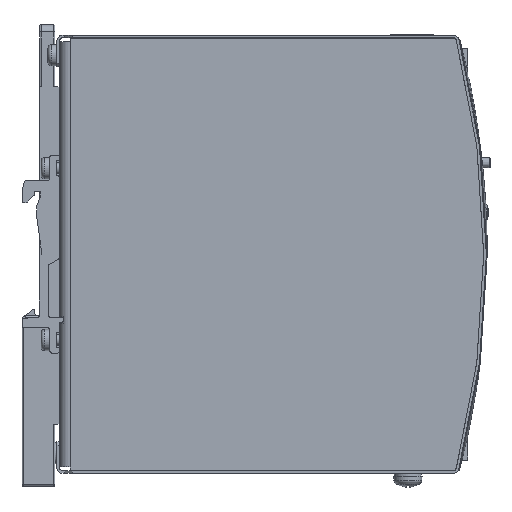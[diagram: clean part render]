
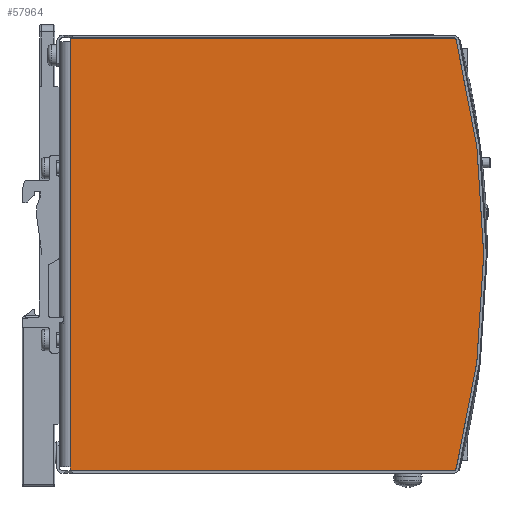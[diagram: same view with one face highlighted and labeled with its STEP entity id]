
A CAD part, front view. The second image highlights one B-rep face of the part: STEP entity #57964.
In plain terms, the highlighted planar face has unit normal (0, -1, 0).
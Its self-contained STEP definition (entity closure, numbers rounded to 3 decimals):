
#2927=PLANE('',#61374);
#5221=FACE_OUTER_BOUND('',#8307,.T.);
#8307=EDGE_LOOP('',(#40726,#40727,#40728,#40729,#40730,#40731,#40732,#40733));
#12036=LINE('',#79454,#18547);
#12084=LINE('',#79601,#18595);
#12093=LINE('',#79615,#18604);
#12134=LINE('',#79705,#18645);
#12136=LINE('',#79709,#18647);
#18547=VECTOR('',#65231,10.);
#18595=VECTOR('',#65373,10.);
#18604=VECTOR('',#65388,10.);
#18645=VECTOR('',#65469,10.);
#18647=VECTOR('',#65475,10.);
#25069=CIRCLE('',#61333,1.);
#25072=CIRCLE('',#61337,240.);
#25075=CIRCLE('',#61343,1.);
#26112=VERTEX_POINT('',#79451);
#26113=VERTEX_POINT('',#79453);
#26154=VERTEX_POINT('',#79563);
#26155=VERTEX_POINT('',#79564);
#26159=VERTEX_POINT('',#79574);
#26164=VERTEX_POINT('',#79591);
#26165=VERTEX_POINT('',#79600);
#26167=VERTEX_POINT('',#79613);
#31850=EDGE_CURVE('',#26113,#26112,#12036,.T.);
#31905=EDGE_CURVE('',#26154,#26155,#25069,.T.);
#31911=EDGE_CURVE('',#26154,#26159,#25072,.T.);
#31920=EDGE_CURVE('',#26164,#26159,#25075,.T.);
#31925=EDGE_CURVE('',#26165,#26113,#12084,.T.);
#31934=EDGE_CURVE('',#26112,#26167,#12093,.T.);
#31979=EDGE_CURVE('',#26164,#26165,#12134,.T.);
#31981=EDGE_CURVE('',#26155,#26167,#12136,.T.);
#40726=ORIENTED_EDGE('',*,*,#31905,.F.);
#40727=ORIENTED_EDGE('',*,*,#31911,.T.);
#40728=ORIENTED_EDGE('',*,*,#31920,.F.);
#40729=ORIENTED_EDGE('',*,*,#31979,.T.);
#40730=ORIENTED_EDGE('',*,*,#31925,.T.);
#40731=ORIENTED_EDGE('',*,*,#31850,.T.);
#40732=ORIENTED_EDGE('',*,*,#31934,.T.);
#40733=ORIENTED_EDGE('',*,*,#31981,.F.);
#57964=ADVANCED_FACE('',(#5221),#2927,.T.);
#61333=AXIS2_PLACEMENT_3D('',#79565,#65334,#65335);
#61337=AXIS2_PLACEMENT_3D('',#79576,#65345,#65346);
#61343=AXIS2_PLACEMENT_3D('',#79593,#65363,#65364);
#61374=AXIS2_PLACEMENT_3D('',#79714,#65483,#65484);
#65231=DIRECTION('',(0.,0.,-1.));
#65334=DIRECTION('center_axis',(0.,1.,0.));
#65335=DIRECTION('ref_axis',(0.612,0.,-0.791));
#65345=DIRECTION('center_axis',(0.,-1.,0.));
#65346=DIRECTION('ref_axis',(-0.967,0.,-0.255));
#65363=DIRECTION('center_axis',(0.,1.,0.));
#65364=DIRECTION('ref_axis',(0.612,0.,0.791));
#65373=DIRECTION('',(0.,0.,-1.));
#65388=DIRECTION('',(0.,0.,-1.));
#65469=DIRECTION('',(-1.,0.,0.));
#65475=DIRECTION('',(-1.,0.,0.));
#65483=DIRECTION('center_axis',(0.,-1.,0.));
#65484=DIRECTION('ref_axis',(0.,0.,-1.));
#79451=CARTESIAN_POINT('',(3.,-24.,-60.15));
#79453=CARTESIAN_POINT('',(3.,-24.,60.15));
#79454=CARTESIAN_POINT('',(3.,-24.,-61.15));
#79563=CARTESIAN_POINT('',(112.275,-24.,-60.402));
#79564=CARTESIAN_POINT('',(111.307,-24.,-61.15));
#79565=CARTESIAN_POINT('Origin',(111.307,-24.,-60.15));
#79574=CARTESIAN_POINT('',(112.275,-24.,60.402));
#79576=CARTESIAN_POINT('Origin',(-120.,-24.,0.));
#79591=CARTESIAN_POINT('',(111.307,-24.,61.15));
#79593=CARTESIAN_POINT('Origin',(111.307,-24.,60.15));
#79600=CARTESIAN_POINT('',(3.,-24.,61.15));
#79601=CARTESIAN_POINT('',(3.,-24.,-61.15));
#79613=CARTESIAN_POINT('',(3.,-24.,-61.15));
#79615=CARTESIAN_POINT('',(3.,-24.,-61.15));
#79705=CARTESIAN_POINT('',(130.,-24.,61.15));
#79709=CARTESIAN_POINT('',(130.,-24.,-61.15));
#79714=CARTESIAN_POINT('Origin',(130.,-24.,-61.15));
